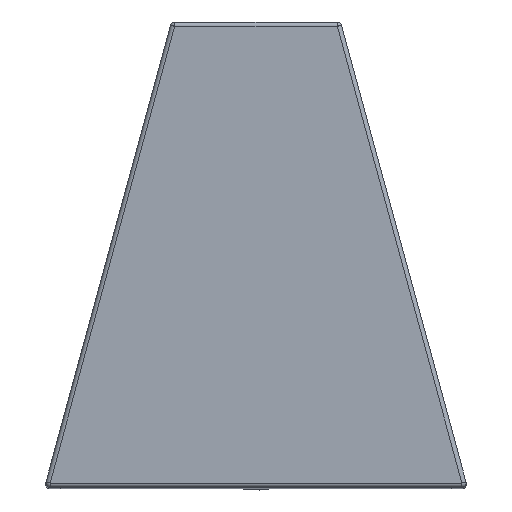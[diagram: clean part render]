
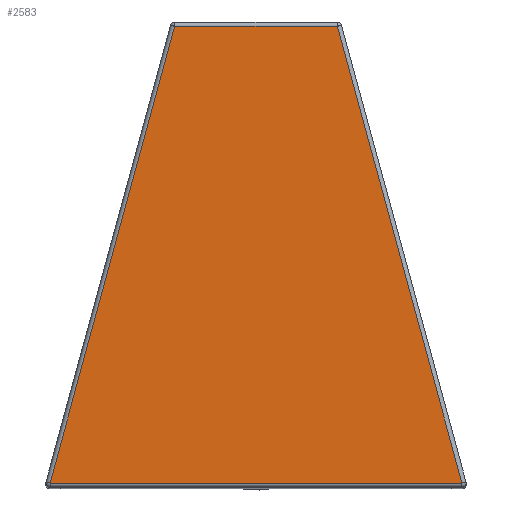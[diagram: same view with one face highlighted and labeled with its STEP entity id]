
A CAD part, top view. The second image highlights one B-rep face of the part: STEP entity #2583.
In plain terms, the highlighted planar face has unit normal (0, 0, 1).
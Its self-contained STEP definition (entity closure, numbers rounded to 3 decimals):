
#362=FACE_OUTER_BOUND('',#535,.T.);
#535=EDGE_LOOP('',(#2194,#2195,#2196,#2197));
#758=LINE('',#4281,#982);
#759=LINE('',#4286,#983);
#760=LINE('',#4293,#984);
#761=LINE('',#4298,#985);
#982=VECTOR('',#3564,10.);
#983=VECTOR('',#3571,10.);
#984=VECTOR('',#3582,10.);
#985=VECTOR('',#3591,10.);
#1198=VERTEX_POINT('',#4277);
#1199=VERTEX_POINT('',#4279);
#1200=VERTEX_POINT('',#4284);
#1201=VERTEX_POINT('',#4291);
#1526=EDGE_CURVE('',#1199,#1198,#758,.T.);
#1529=EDGE_CURVE('',#1200,#1199,#759,.T.);
#1533=EDGE_CURVE('',#1201,#1200,#760,.T.);
#1536=EDGE_CURVE('',#1198,#1201,#761,.T.);
#2194=ORIENTED_EDGE('',*,*,#1526,.F.);
#2195=ORIENTED_EDGE('',*,*,#1529,.F.);
#2196=ORIENTED_EDGE('',*,*,#1533,.F.);
#2197=ORIENTED_EDGE('',*,*,#1536,.F.);
#2290=PLANE('',#2864);
#2583=ADVANCED_FACE('',(#362),#2290,.T.);
#2864=AXIS2_PLACEMENT_3D('',#4305,#3604,#3605);
#3564=DIRECTION('',(-1.,0.,0.));
#3571=DIRECTION('',(0.263,-0.965,0.));
#3582=DIRECTION('',(1.,0.,0.));
#3591=DIRECTION('',(0.263,0.965,0.));
#3604=DIRECTION('center_axis',(0.,0.,1.));
#3605=DIRECTION('ref_axis',(1.,0.,0.));
#4277=CARTESIAN_POINT('',(-243.454,-270.,960.));
#4279=CARTESIAN_POINT('',(243.454,-270.,960.));
#4281=CARTESIAN_POINT('',(-121.727,-270.,960.));
#4284=CARTESIAN_POINT('',(96.181,270.,960.));
#4286=CARTESIAN_POINT('',(200.757,-113.446,960.));
#4291=CARTESIAN_POINT('',(-96.181,270.,960.));
#4293=CARTESIAN_POINT('',(48.091,270.,960.));
#4298=CARTESIAN_POINT('',(-127.121,156.554,960.));
#4305=CARTESIAN_POINT('Origin',(0.,0.,
960.));
